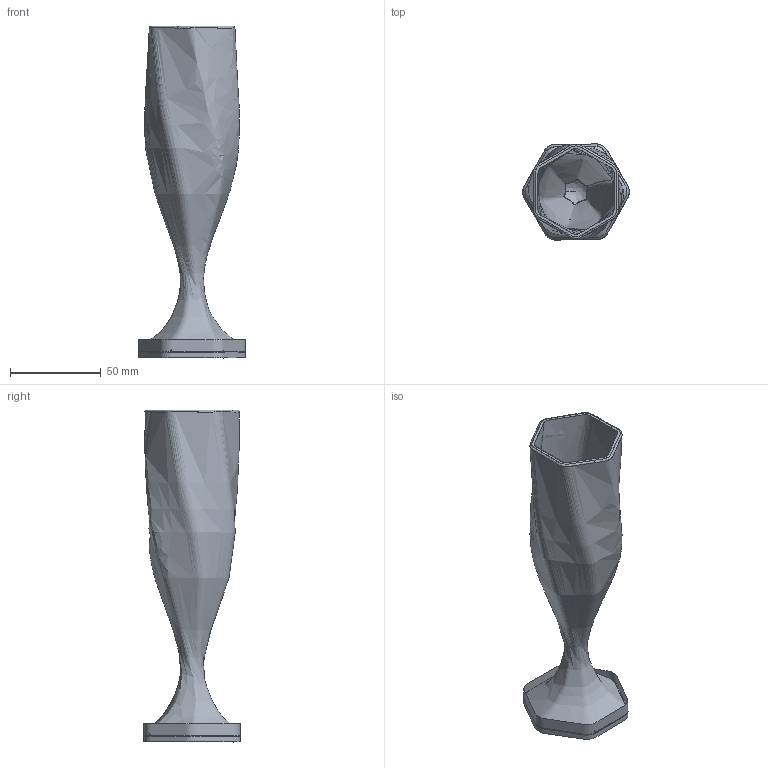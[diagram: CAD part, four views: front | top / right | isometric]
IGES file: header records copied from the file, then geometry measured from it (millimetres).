
Global section: file name: C:\Users\mveid\Desktop\Glass 6_eckig.igs; native system: NX V8.0; preprocessor: SIEMENS PLM Software NX 8.0; date: 20140603.161056; units: millimetre
Bounding box: 58.78 x 52.96 x 183.07 mm (x, y, z)
Surface area: 62810.4 mm2 (no closed solid volume)
Topology: 0 solids, 0 shells, 58 faces, 732 edges, 863 vertices
Faces by surface type: bspline 57, offset 1
